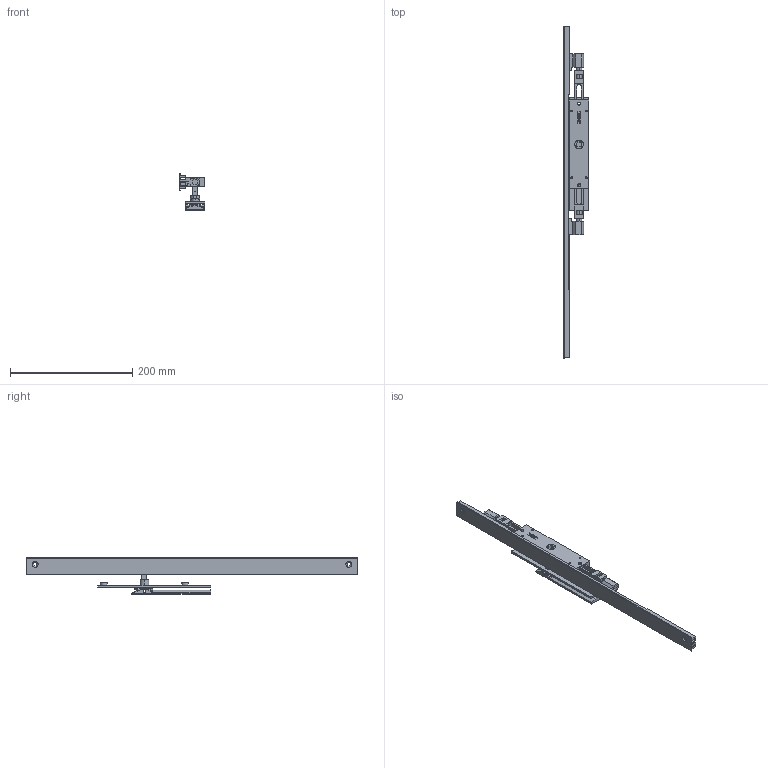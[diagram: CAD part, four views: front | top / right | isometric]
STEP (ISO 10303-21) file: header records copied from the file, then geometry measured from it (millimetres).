
FILE_DESCRIPTION (( 'STEP AP214' ), '1' );
FILE_NAME ('TPL-W-522-L 19July2024.STEP', '2024-12-05T00:12:46', ( '' ), ( '' ), 'SwSTEP 2.0', 'SolidWorks 2023', '' );
FILE_SCHEMA (( 'AUTOMOTIVE_DESIGN' ));
Length unit declared in the file: millimetre
Products named in the file (16): Copy of LKC-547 Spindle - simplified^Copy of TPGen2 handle non-keyed - simplified_TPL-W-022 19July2024_I - 28mm; Copy of TPLGen2 lock body non-keyed assembly^TPL-W-022 19July2024_Bolts extended; Copy of TPGen2 handle non-keyed - simplified^TPL-W-022 19July2024_Vertical; TPLGen2 push rod - simplified^Copy of TPLGen2 lock body non-keyed assembly_TPL-W-022 19July2024_Female thread M10; Copy of Copy of LKC-531 Lock twinpoint transmission rod wood system^TPL-W-022 19July2024_Standard Range 2891.7mm; Copy of Handle sub-assembly - simplified^Copy of TPGen2 handle non-keyed - simplified_TPL-W-022 19July2024; Copy of Escutcheon plate unkeyed 185mm - simplified^Copy of TPGen2 handle non-keyed - simplified_TPL-W-022 19July2024; TPL-W-522-L 19July2024; Copy of Copy of Copy of LKC-531 Lock twinpoint transmission rod wood system^TPL-W-022 19July2024_Standard Range 2891.7mm; Bolt.step; Copy of COV-112-A Cover A suit TPLGen2 standard range^TPL-W-022 19July2024_2870mm; COV-112-B Cover B suit TPLGen2 standard range^TPL-W-022 19July2024_2870mm; Copy of Adapter DnF - simplfied^TPL-W-022 19July2024_26mm backset; Copy of Adapter CnE - simplfied^TPL-W-022 19July2024_26mm backset; Copy of TPLGen2 lock body non-keyed^Copy of TPLGen2 lock body non-keyed assembly_TPL-W-022 19July2024; COV-112-C Cover C TPLGen2 Lock body^TPL-W-022 19July2024
Assembly tree (13 placements, depth 3):
  TPL-W-522-L 19July2024
    Copy of TPLGen2 lock body non-keyed assembly^TPL-W-022 19July2024_Bolts extended
      Copy of TPLGen2 lock body non-keyed^Copy of TPLGen2 lock body non-keyed assembly_TPL-W-022 19July2024
      TPLGen2 push rod - simplified^Copy of TPLGen2 lock body non-keyed assembly_TPL-W-022 19July2024_Female thread M10  x2
    Copy of TPGen2 handle non-keyed - simplified^TPL-W-022 19July2024_Vertical
      Copy of Escutcheon plate unkeyed 185mm - simplified^Copy of TPGen2 handle non-keyed - simplified_TPL-W-022 19July2024
      Copy of Handle sub-assembly - simplified^Copy of TPGen2 handle non-keyed - simplified_TPL-W-022 19July2024
      Copy of LKC-547 Spindle - simplified^Copy of TPGen2 handle non-keyed - simplified_TPL-W-022 19July2024_I - 28mm
    COV-112-C Cover C TPLGen2 Lock body^TPL-W-022 19July2024
    Copy of Copy of LKC-531 Lock twinpoint transmission rod wood system^TPL-W-022 19July2024_Standard Range 2891.7mm
    Copy of Copy of Copy of LKC-531 Lock twinpoint transmission rod wood system^TPL-W-022 19July2024_Standard Range 2891.7mm
    Copy of Adapter DnF - simplfied^TPL-W-022 19July2024_26mm backset
    Copy of Adapter CnE - simplfied^TPL-W-022 19July2024_26mm backset
  Bolt.step
  Copy of COV-112-A Cover A suit TPLGen2 standard range^TPL-W-022 19July2024_2870mm
  COV-112-B Cover B suit TPLGen2 standard range^TPL-W-022 19July2024_2870mm
Bounding box: 42 x 544 x 59.32 mm (x, y, z)
Volume: 208963.5 mm3; surface area: 118698 mm2
Topology: 12 solids, 12 shells, 637 faces, 1619 edges, 1023 vertices
Faces by surface type: plane 297, cylinder 199, bspline 77, torus 32, cone 20, sphere 12
Entity records: 19175 total; most frequent: CARTESIAN_POINT 4453, ORIENTED_EDGE 3022, DIRECTION 2875, EDGE_CURVE 1511, AXIS2_PLACEMENT_3D 993, VERTEX_POINT 963, VECTOR 889, LINE 889
